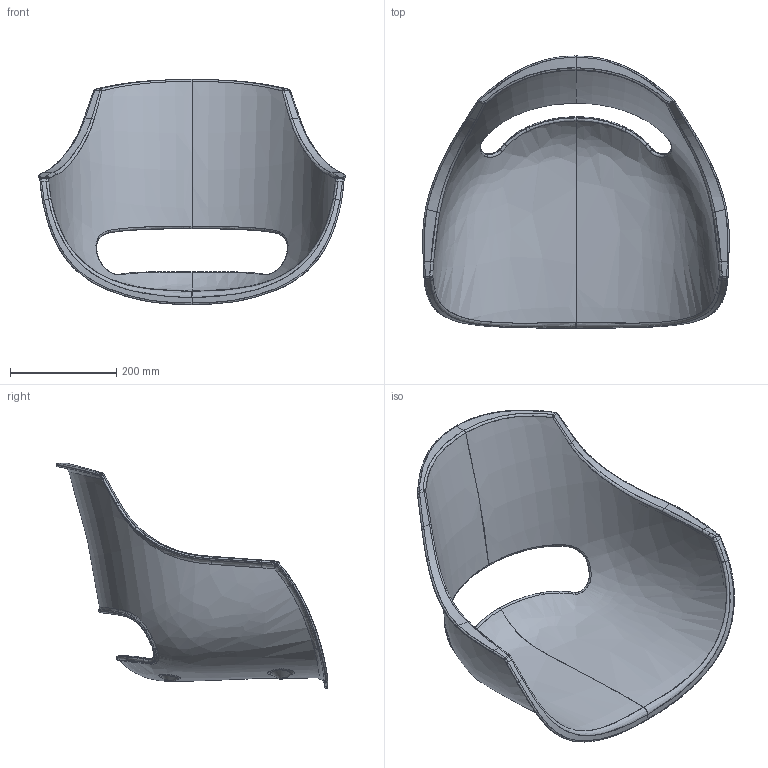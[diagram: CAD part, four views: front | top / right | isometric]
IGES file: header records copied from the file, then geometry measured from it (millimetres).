
Global section: file name: C:\Users\DAMLA.TEMIZ\Desktop\opal kabuk.igs; native system: Rhinoceros ( Jan 18 2007 ); preprocessor: Trout Lake IGES 012 Jan 18 2007; date: 140717.115719; units: centimetre
Bounding box: 576.11 x 510.53 x 422.92 mm (x, y, z)
Surface area: 894175.5 mm2 (no closed solid volume)
Topology: 0 solids, 0 shells, 403 faces, 2205 edges, 2187 vertices
Faces by surface type: bspline 403
